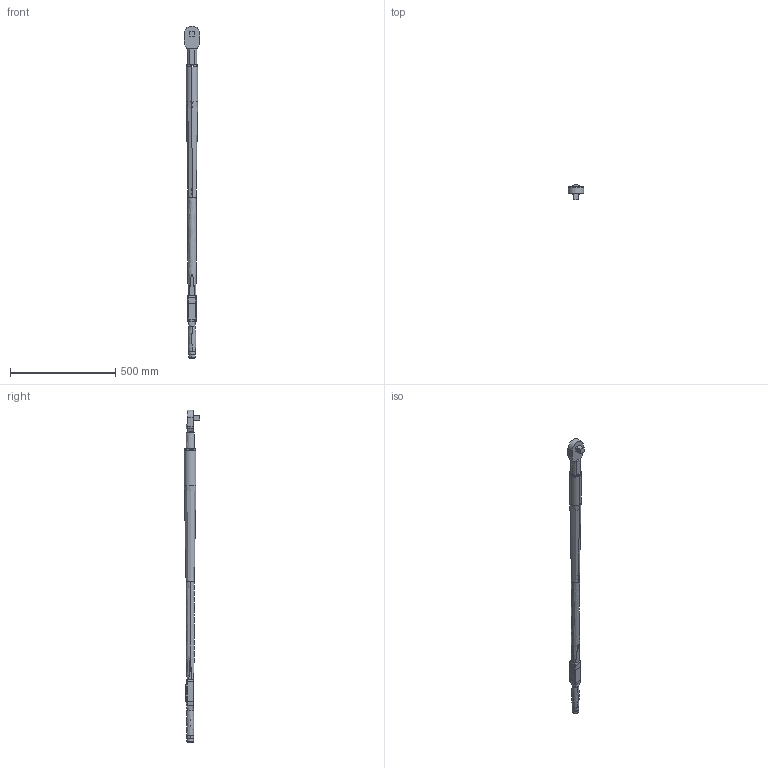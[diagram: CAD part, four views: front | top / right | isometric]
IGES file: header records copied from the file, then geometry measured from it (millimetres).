
Start section:  PTC IGES file: 6159352160_dim.igs
Global section: file name: 6159352160_dim.igs; native system: Creo Parametric by PTC Inc.; preprocessor: 2021072; author: S00000450; organization: Unknown; date: 20210628.090825; units: millimetre
Bounding box: 74 x 72.5 x 1579 mm (x, y, z)
Surface area: 238097.4 mm2 (no closed solid volume)
Topology: 0 solids, 0 shells, 165 faces, 897 edges, 896 vertices
Faces by surface type: bspline 96, revolution 61, extrusion 8
